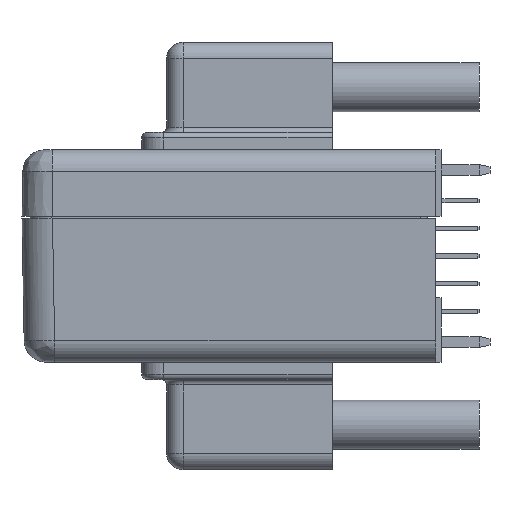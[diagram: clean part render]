
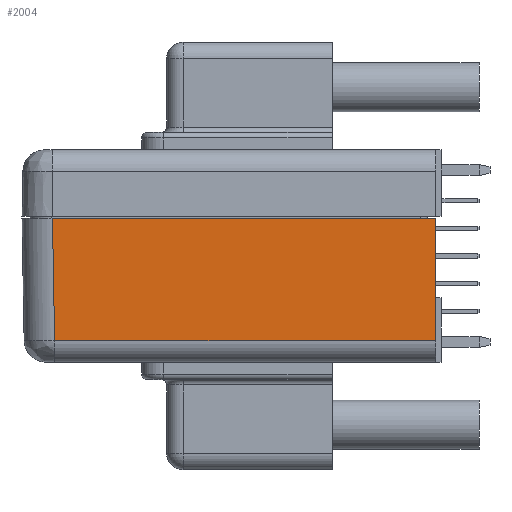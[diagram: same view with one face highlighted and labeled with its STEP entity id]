
A CAD part, left-side view. The second image highlights one B-rep face of the part: STEP entity #2004.
In plain terms, the highlighted planar face has unit normal (-1, 0, -0.014).
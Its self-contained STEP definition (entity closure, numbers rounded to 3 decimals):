
#1328=FACE_OUTER_BOUND('',#6119,.T.);
#2004=ADVANCED_FACE('',(#1328),#2566,.F.);
#2566=PLANE('',#13880);
#3179=LINE('',#18792,#4568);
#3583=LINE('',#21309,#4972);
#3584=LINE('',#21337,#4973);
#3585=LINE('',#21338,#4974);
#4568=VECTOR('',#15218,1.);
#4972=VECTOR('',#16060,1.);
#4973=VECTOR('',#16065,1.);
#4974=VECTOR('',#16066,1.);
#6119=EDGE_LOOP('',(#8348,#8349,#8350,#8351));
#8348=ORIENTED_EDGE('',*,*,#12258,.T.);
#8349=ORIENTED_EDGE('',*,*,#12261,.T.);
#8350=ORIENTED_EDGE('',*,*,#11735,.F.);
#8351=ORIENTED_EDGE('',*,*,#12262,.T.);
#10432=VERTEX_POINT('',#18791);
#10433=VERTEX_POINT('',#18793);
#10774=VERTEX_POINT('',#21308);
#10775=VERTEX_POINT('',#21310);
#11735=EDGE_CURVE('',#10432,#10433,#3179,.T.);
#12258=EDGE_CURVE('',#10775,#10774,#3583,.T.);
#12261=EDGE_CURVE('',#10774,#10433,#3584,.T.);
#12262=EDGE_CURVE('',#10432,#10775,#3585,.T.);
#13880=AXIS2_PLACEMENT_3D('',#21339,#16067,#16068);
#15218=DIRECTION('',(0.,-1.,0.));
#16060=DIRECTION('',(0.,-1.,0.));
#16065=DIRECTION('',(-0.014,0.,1.));
#16066=DIRECTION('',(0.014,-0.017,-1.));
#16067=DIRECTION('',(1.,0.,0.014));
#16068=DIRECTION('',(0.014,0.,-1.));
#18791=CARTESIAN_POINT('',(-69.45,7.586,-93.95));
#18792=CARTESIAN_POINT('',(-69.45,-8.614,-93.95));
#18793=CARTESIAN_POINT('',(-69.45,-27.614,-93.95));
#21308=CARTESIAN_POINT('',(-69.293,-27.614,-105.178));
#21309=CARTESIAN_POINT('',(-69.293,-8.614,-105.178));
#21310=CARTESIAN_POINT('',(-69.293,7.39,-105.178));
#21337=CARTESIAN_POINT('',(-69.45,-27.614,-93.95));
#21338=CARTESIAN_POINT('',(-69.446,7.581,-94.232));
#21339=CARTESIAN_POINT('',(-69.45,-8.614,-93.95));
